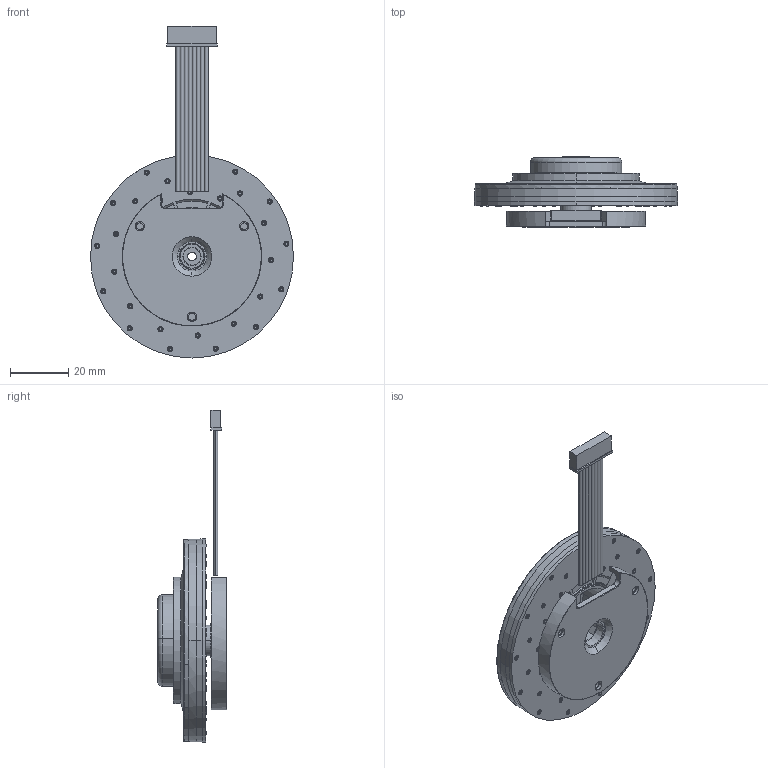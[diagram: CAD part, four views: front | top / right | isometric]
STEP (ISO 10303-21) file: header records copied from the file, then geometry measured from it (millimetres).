
FILE_DESCRIPTION((''),'2;1');
FILE_NAME('00','2026-09-11T16:11:50',('pc'),(''),'CREO PARAMETRIC BY PTC INC, 2018050','CREO PARAMETRIC BY PTC INC, 2018050','');
FILE_SCHEMA(('CONFIG_CONTROL_DESIGN','GEOMETRIC_VALIDATION_PROPERTIES_MIM'));
Length unit declared in the file: millimetre
Products named in the file (1): 00
Bounding box: 70 x 24.11 x 114.44 mm (x, y, z)
Volume: 34796.8 mm3; surface area: 21381.2 mm2
Topology: 3 solids, 5 shells, 641 faces, 1545 edges, 992 vertices
Faces by surface type: plane 246, cone 194, cylinder 171, torus 24, bspline 6
Entity records: 19876 total; most frequent: CARTESIAN_POINT 3685, DIRECTION 3483, ORIENTED_EDGE 3090, EDGE_CURVE 1545, AXIS2_PLACEMENT_3D 1390, VERTEX_POINT 992, CIRCLE 755, EDGE_LOOP 723
